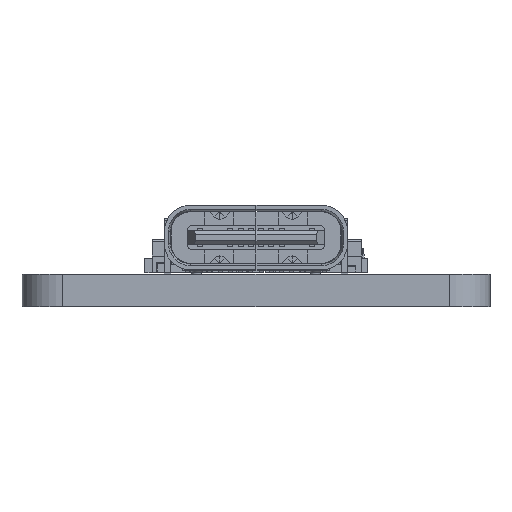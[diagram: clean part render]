
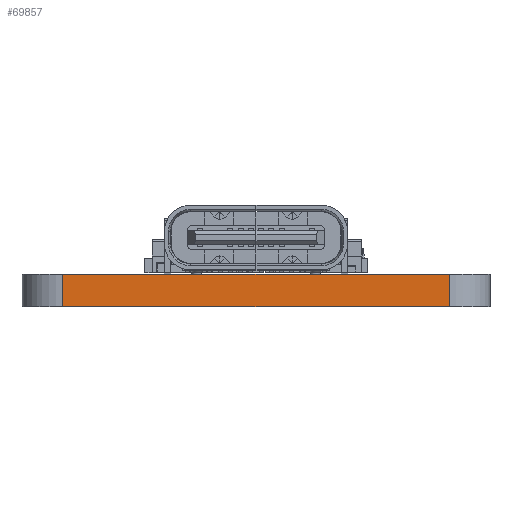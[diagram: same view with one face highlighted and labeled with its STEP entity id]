
A CAD part, left-side view. The second image highlights one B-rep face of the part: STEP entity #69857.
In plain terms, the highlighted planar face has unit normal (-1, 0, 0).
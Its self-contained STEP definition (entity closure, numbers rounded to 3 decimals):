
#68426 = VERTEX_POINT('',#68427);
#68427 = CARTESIAN_POINT('',(113.03,-92.17,0.));
#68434 = EDGE_CURVE('',#68435,#68426,#68437,.T.);
#68435 = VERTEX_POINT('',#68436);
#68436 = CARTESIAN_POINT('',(113.03,-111.03,0.));
#68437 = LINE('',#68438,#68439);
#68438 = CARTESIAN_POINT('',(113.03,-111.03,0.));
#68439 = VECTOR('',#68440,1.);
#68440 = DIRECTION('',(0.,1.,0.));
#69128 = VERTEX_POINT('',#69129);
#69129 = CARTESIAN_POINT('',(113.03,-92.17,1.6));
#69136 = EDGE_CURVE('',#69137,#69128,#69139,.T.);
#69137 = VERTEX_POINT('',#69138);
#69138 = CARTESIAN_POINT('',(113.03,-111.03,1.6));
#69139 = LINE('',#69140,#69141);
#69140 = CARTESIAN_POINT('',(113.03,-111.03,1.6));
#69141 = VECTOR('',#69142,1.);
#69142 = DIRECTION('',(0.,1.,0.));
#69827 = EDGE_CURVE('',#68426,#69128,#69828,.T.);
#69828 = LINE('',#69829,#69830);
#69829 = CARTESIAN_POINT('',(113.03,-92.17,0.));
#69830 = VECTOR('',#69831,1.);
#69831 = DIRECTION('',(0.,0.,1.));
#69857 = ADVANCED_FACE('',(#69858),#69869,.T.);
#69858 = FACE_BOUND('',#69859,.T.);
#69859 = EDGE_LOOP('',(#69860,#69866,#69867,#69868));
#69860 = ORIENTED_EDGE('',*,*,#69861,.T.);
#69861 = EDGE_CURVE('',#68435,#69137,#69862,.T.);
#69862 = LINE('',#69863,#69864);
#69863 = CARTESIAN_POINT('',(113.03,-111.03,0.));
#69864 = VECTOR('',#69865,1.);
#69865 = DIRECTION('',(0.,0.,1.));
#69866 = ORIENTED_EDGE('',*,*,#69136,.T.);
#69867 = ORIENTED_EDGE('',*,*,#69827,.F.);
#69868 = ORIENTED_EDGE('',*,*,#68434,.F.);
#69869 = PLANE('',#69870);
#69870 = AXIS2_PLACEMENT_3D('',#69871,#69872,#69873);
#69871 = CARTESIAN_POINT('',(113.03,-111.03,0.));
#69872 = DIRECTION('',(-1.,0.,0.));
#69873 = DIRECTION('',(0.,1.,0.));
